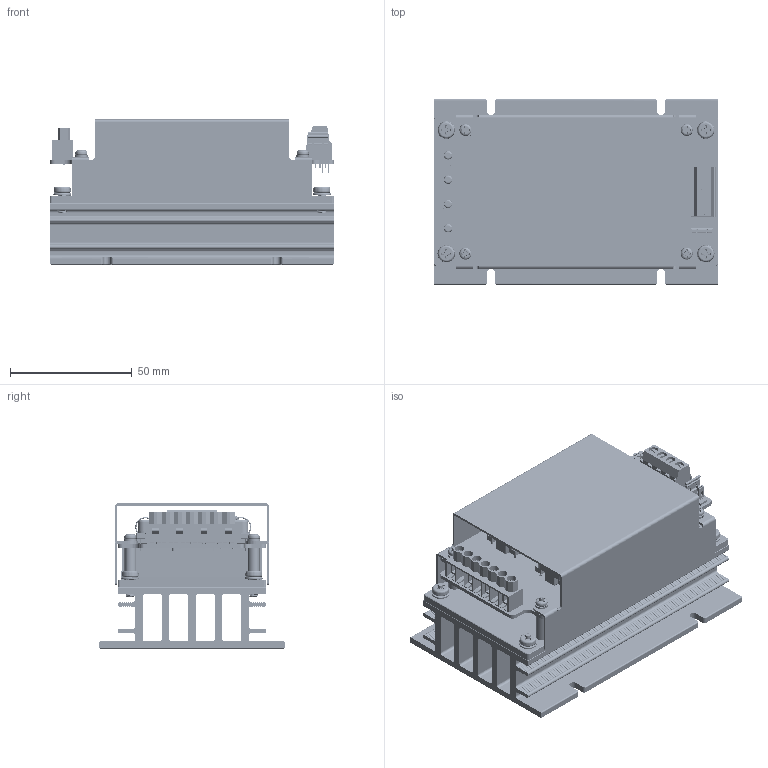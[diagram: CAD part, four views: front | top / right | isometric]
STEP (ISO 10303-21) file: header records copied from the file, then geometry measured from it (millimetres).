
FILE_DESCRIPTION (( 'STEP AP203' ), '1' );
FILE_NAME ('CQBXXX-300S-CMFD+HS 2023.07.19.STEP', '2023-07-20T00:49:01', ( '' ), ( '' ), 'SwSTEP 2.0', 'SolidWorks 2020', '' );
FILE_SCHEMA (( 'CONFIG_CONTROL_DESIGN' ));
Products named in the file (1): CQBXXX-300S-CMFD+HS 2023.07.19
Bounding box: 116.84 x 76.2 x 59.7 mm (x, y, z)
Volume: 170836.2 mm3; surface area: 118937 mm2
Topology: 14 solids, 18 shells, 3374 faces, 11135 edges, 7158 vertices
Faces by surface type: plane 1822, cylinder 700, bspline 625, cone 126, torus 67, sphere 34
Full cylindrical faces by diameter (mm): 0.5 x8, 0.8 x6, 0.9 x4, 1 x14, 1.15 x6, 1.2 x6, 1.5 x4, 1.65 x2, 1.8 x2, 2.2 x12, 2.5 x28, 2.6 x7, 3.2 x13, 3.25 x1, 3.5 x4, 3.8 x4, 3.9 x42, 4 x7, 4.3 x2, 4.445 x1, 4.45 x4, 4.5 x7, 4.7 x10, 5 x4, 7.8 x1, 8 x1, 8.8 x1, 12.6 x2
Entity records: 511855 total; most frequent: CARTESIAN_POINT 426289, ORIENTED_EDGE 21124, DIRECTION 13622, EDGE_CURVE 10562, VERTEX_POINT 6924, LINE 5268, VECTOR 5268, AXIS2_PLACEMENT_3D 4177
